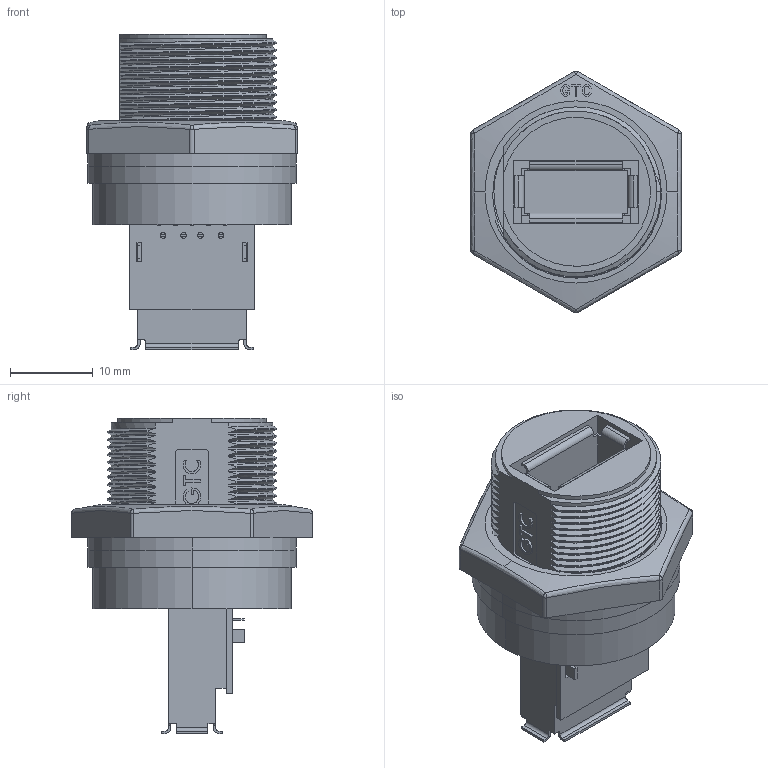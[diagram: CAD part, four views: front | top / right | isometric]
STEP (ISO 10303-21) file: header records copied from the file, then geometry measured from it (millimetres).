
FILE_DESCRIPTION (( 'STEP AP203' ), '1' );
FILE_NAME ('GT118300-35.STEP', '2016-09-07T01:42:04', ( '' ), ( '' ), 'SwSTEP 2.0', 'SolidWorks 2012', '' );
FILE_SCHEMA (( 'CONFIG_CONTROL_DESIGN' ));
Length unit declared in the file: millimetre
Products named in the file (8): GT118300-35; 65118-00010; A+A+PCB; USB-A 3.0; USB-A 3.0+A PCB; 66153-00010_A2; 65153-00010; 60118-38103~4
Assembly tree (8 placements, depth 3):
  GT118300-35
    60118-38103~4
    65153-00010
    66153-00010_A2
    A+A+PCB
      USB-A 3.0+A PCB
      USB-A 3.0  x2
    65118-00010
Bounding box: 25.4 x 29.17 x 38.06 mm (x, y, z)
Volume: 5443.6 mm3; surface area: 10781.5 mm2
Topology: 7 solids, 7 shells, 606 faces, 1656 edges, 1086 vertices
Faces by surface type: plane 359, cylinder 144, bspline 81, sphere 13, cone 7, torus 2
Entity records: 42661 total; most frequent: CARTESIAN_POINT 30034, ORIENTED_EDGE 2756, DIRECTION 2011, EDGE_CURVE 1378, VERTEX_POINT 904, LINE 711, VECTOR 711, AXIS2_PLACEMENT_3D 650
